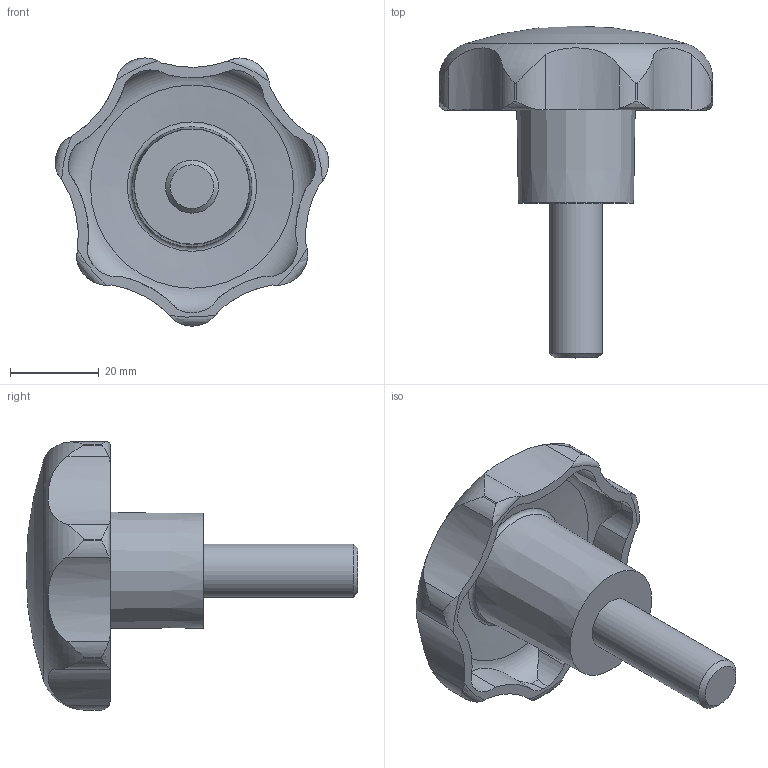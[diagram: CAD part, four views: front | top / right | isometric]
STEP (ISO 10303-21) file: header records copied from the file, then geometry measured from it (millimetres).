
FILE_DESCRIPTION( ( 'STEP AP203' ), '1' );
FILE_NAME( 'C:/Temp/Ganter_Step_05_03_2020/data/2_2/gn_6336_4/gn_6336_4_st/Star knob GN 6336.4-ST-63-M12-35.stp', '2020-03-05T12:07:45', ( 'License CC BY-ND 4.0' ), ( 'CADENAS' ), ' ', 'PARTsolutions', ' ' );
FILE_SCHEMA( ( 'CONFIG_CONTROL_DESIGN' ) );
Length unit declared in the file: millimetre
Products named in the file (1): _Star knob GN 6336.4-ST-63-M12-35
Bounding box: 61.76 x 75 x 60.57 mm (x, y, z)
Volume: 43087.2 mm3; surface area: 13013.4 mm2
Topology: 1 solids, 1 shells, 74 faces, 208 edges, 137 vertices
Faces by surface type: cylinder 50, torus 10, cone 10, plane 3, sphere 1
Full cylindrical faces by diameter (mm): 12 x1
Entity records: 3320 total; most frequent: CARTESIAN_POINT 1487, ORIENTED_EDGE 394, DIRECTION 350, EDGE_CURVE 197, AXIS2_PLACEMENT_3D 154, VERTEX_POINT 135, EDGE_LOOP 83, CIRCLE 79
